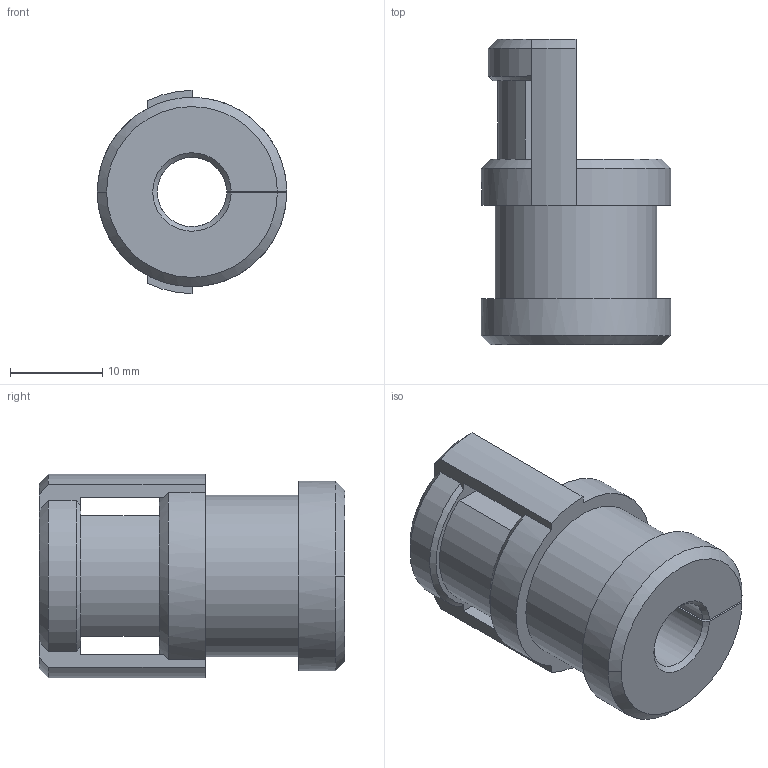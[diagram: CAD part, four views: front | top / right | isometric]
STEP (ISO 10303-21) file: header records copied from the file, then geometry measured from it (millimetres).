
FILE_DESCRIPTION (( 'STEP AP203' ), '1' );
FILE_NAME ('KDT-Z 06.STEP', '2022-10-14T09:23:44', ( '' ), ( '' ), 'SwSTEP 2.0', 'SolidWorks 2016', '' );
FILE_SCHEMA (( 'CONFIG_CONTROL_DESIGN' ));
Length unit declared in the file: millimetre
Products named in the file (1): KDT-Z 06
Bounding box: 20.5 x 33.1 x 22 mm (x, y, z)
Volume: 6196.7 mm3; surface area: 3498.7 mm2
Topology: 1 solids, 1 shells, 39 faces, 123 edges, 82 vertices
Faces by surface type: plane 16, cone 13, cylinder 10
Entity records: 1632 total; most frequent: CARTESIAN_POINT 476, ORIENTED_EDGE 246, DIRECTION 208, EDGE_CURVE 123, VERTEX_POINT 82, AXIS2_PLACEMENT_3D 71, LINE 66, VECTOR 66
